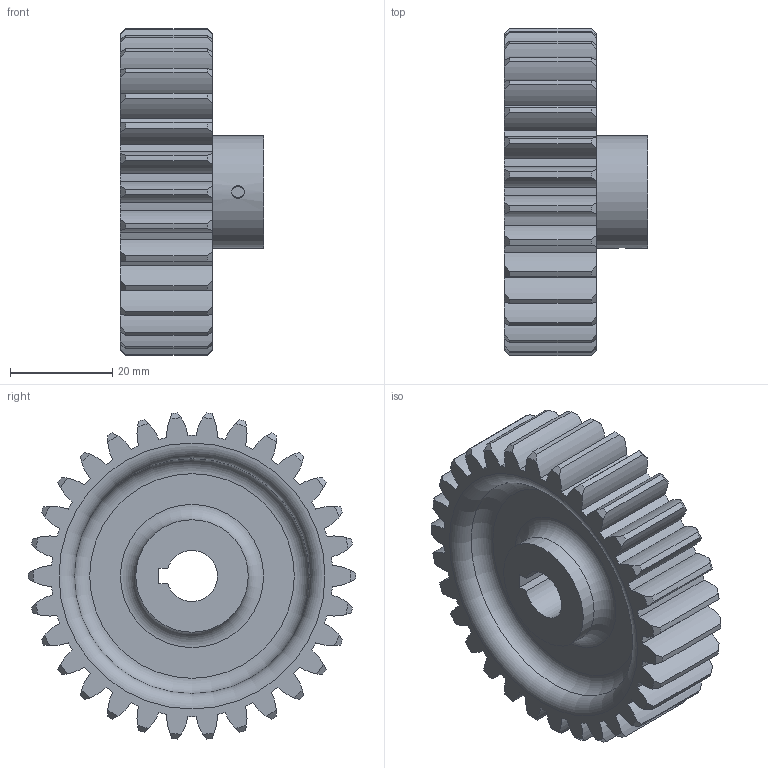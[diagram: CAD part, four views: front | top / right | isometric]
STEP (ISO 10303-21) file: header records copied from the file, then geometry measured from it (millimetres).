
FILE_DESCRIPTION(/* description */ (''),/* implementation_level */ '2;1');
FILE_NAME(/* name */ 'C:\Users\학생용\Desktop\390603E1007-스퍼기어.stp',/* time_stamp */ '2019-06-22T11:30:01+09:00',/* author */ ('학생용'),/* organization */ (''),/* preprocessor_version */ 'ST-DEVELOPER v15.2',/* originating_system */ 'Autodesk Inventor 2014',/* authorisation */ '');
FILE_SCHEMA (('AUTOMOTIVE_DESIGN { 1 0 10303 214 3 1 1 }'));
Length unit declared in the file: millimetre
Products named in the file (1): 부품
Bounding box: 28 x 64 x 63.76 mm (x, y, z)
Volume: 36540.3 mm3; surface area: 15423.5 mm2
Topology: 1 solids, 1 shells, 201 faces, 579 edges, 384 vertices
Faces by surface type: cylinder 124, cone 62, plane 9, torus 6
Full cylindrical faces by diameter (mm): 2.459 x1, 22 x2
Entity records: 6927 total; most frequent: CARTESIAN_POINT 1586, DIRECTION 1166, ORIENTED_EDGE 1140, EDGE_CURVE 570, AXIS2_PLACEMENT_3D 518, VERTEX_POINT 384, CIRCLE 316, EDGE_LOOP 218
